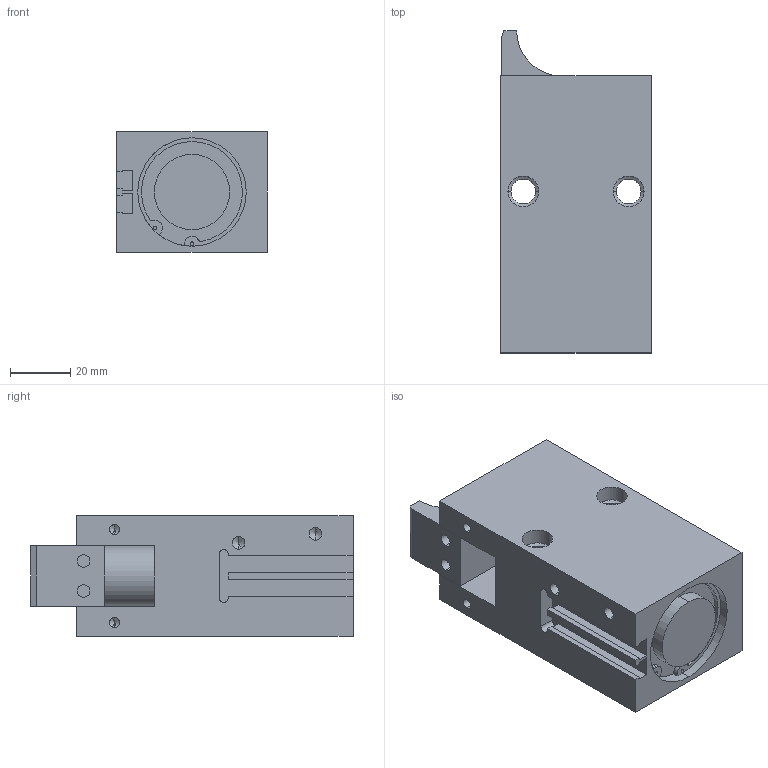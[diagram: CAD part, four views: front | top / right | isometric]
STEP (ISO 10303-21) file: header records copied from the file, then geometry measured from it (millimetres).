
FILE_DESCRIPTION (( 'STEP AP203' ), '1' );
FILE_NAME ('D0400-15-DW-E-G.STEP', '2011-10-12T08:22:38', ( 'test' ), ( '' ), 'SwSTEP 2.0', 'SolidWorks 2010', '' );
FILE_SCHEMA (( 'CONFIG_CONTROL_DESIGN' ));
Length unit declared in the file: millimetre
Products named in the file (1): D0400-15-DW-E-G
Bounding box: 50 x 107 x 40 mm (x, y, z)
Volume: 168906.8 mm3; surface area: 31316.9 mm2
Topology: 1 solids, 1 shells, 133 faces, 330 edges, 200 vertices
Faces by surface type: cylinder 60, plane 49, cone 24
Entity records: 3915 total; most frequent: DIRECTION 708, CARTESIAN_POINT 648, ORIENTED_EDGE 628, EDGE_CURVE 314, AXIS2_PLACEMENT_3D 260, VERTEX_POINT 200, LINE 188, VECTOR 188
